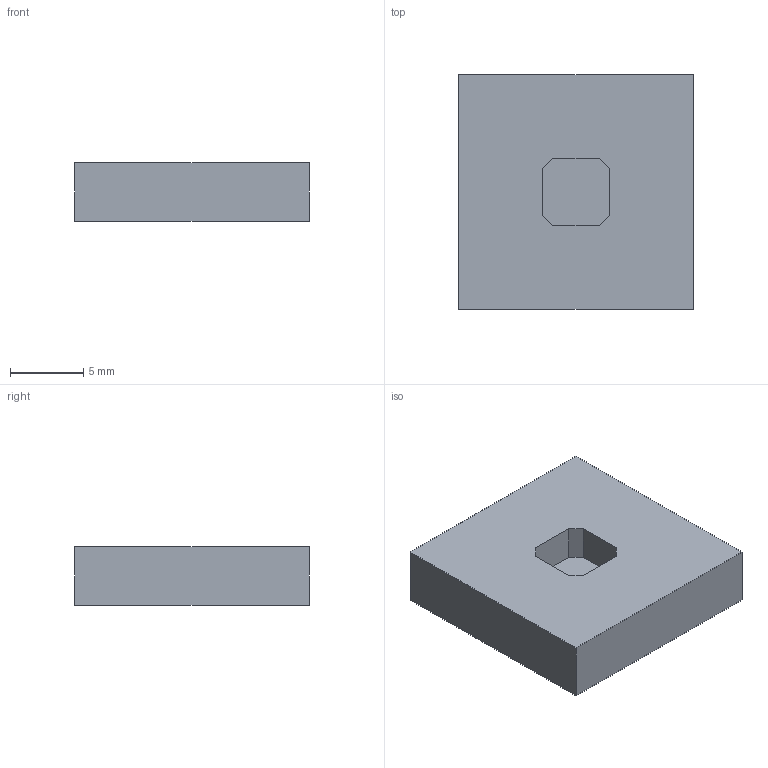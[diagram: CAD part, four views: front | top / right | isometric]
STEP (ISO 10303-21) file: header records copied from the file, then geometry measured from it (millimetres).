
FILE_DESCRIPTION(('Open CASCADE Model'),'2;1');
FILE_NAME('Open CASCADE Shape Model','2026-10-02T12:54:52',('Author'),( 'Open CASCADE'),'Open CASCADE STEP processor 7.8','Open CASCADE 7.8' ,'Unknown');
FILE_SCHEMA(('AUTOMOTIVE_DESIGN { 1 0 10303 214 1 1 1 1 }'));
Length unit declared in the file: millimetre
Products named in the file (1): Open CASCADE STEP translator 7.8 3
Bounding box: 16 x 16 x 4 mm (x, y, z)
Volume: 975.6 mm3; surface area: 808.2 mm2
Topology: 1 solids, 1 shells, 15 faces, 36 edges, 24 vertices
Faces by surface type: plane 15
Entity records: 908 total; most frequent: CARTESIAN_POINT 148, DIRECTION 140, LINE 108, VECTOR 108, ORIENTED_EDGE 72, PCURVE 72, DEFINITIONAL_REPRESENTATION 72, EDGE_CURVE 36
